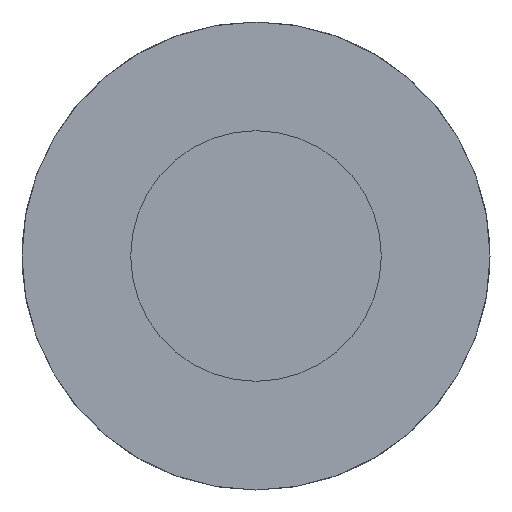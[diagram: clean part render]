
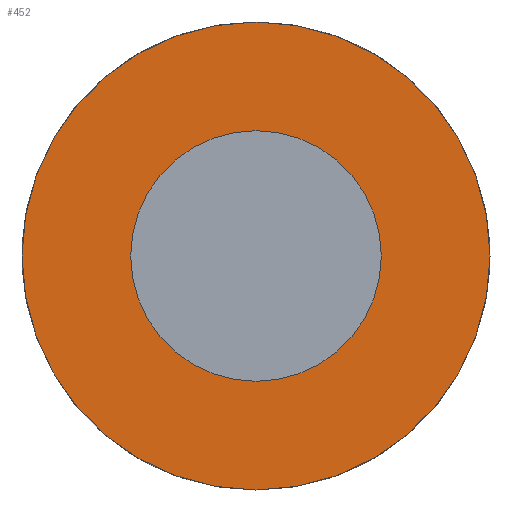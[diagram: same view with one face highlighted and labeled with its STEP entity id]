
A CAD part, front view. The second image highlights one B-rep face of the part: STEP entity #452.
In plain terms, the highlighted planar face has unit normal (0, -1, 0).
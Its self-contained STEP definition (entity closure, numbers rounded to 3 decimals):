
#15=CARTESIAN_POINT('',(0.,0.,0.));
#16=DIRECTION('',(0.,1.,0.));
#17=DIRECTION('',(-1.,0.,0.));
#18=AXIS2_PLACEMENT_3D('',#15,#16,#17);
#28=CARTESIAN_POINT('',(0.,0.,0.));
#29=DIRECTION('',(0.,-1.,0.));
#30=DIRECTION('',(-1.,0.,0.));
#31=AXIS2_PLACEMENT_3D('',#28,#29,#30);
#43=CARTESIAN_POINT('',(0.,0.,0.));
#44=DIRECTION('',(0.,1.,0.));
#45=DIRECTION('',(-1.,0.,0.));
#46=AXIS2_PLACEMENT_3D('',#43,#44,#45);
#48=CARTESIAN_POINT('',(0.,0.,0.));
#49=DIRECTION('',(0.,-1.,0.));
#50=DIRECTION('',(-1.,0.,0.));
#51=AXIS2_PLACEMENT_3D('',#48,#49,#50);
#313=CARTESIAN_POINT('',(-1.5,0.,0.));
#315=VERTEX_POINT('',#313);
#318=CARTESIAN_POINT('',(-2.8,0.,0.));
#320=VERTEX_POINT('',#318);
#321=CARTESIAN_POINT('',(1.5,0.,0.));
#323=VERTEX_POINT('',#321);
#326=CARTESIAN_POINT('',(2.8,0.,0.));
#328=VERTEX_POINT('',#326);
#437=CARTESIAN_POINT('',(0.,0.,0.));
#438=DIRECTION('',(0.,1.,0.));
#439=DIRECTION('',(1.,0.,0.));
#440=AXIS2_PLACEMENT_3D('',#437,#438,#439);
#441=PLANE('',#440);
#443=ORIENTED_EDGE('',*,*,#442,.T.);
#445=ORIENTED_EDGE('',*,*,#444,.F.);
#446=EDGE_LOOP('',(#443,#445));
#447=FACE_OUTER_BOUND('',#446,.F.);
#448=ORIENTED_EDGE('',*,*,#422,.T.);
#449=ORIENTED_EDGE('',*,*,#404,.F.);
#450=EDGE_LOOP('',(#448,#449));
#451=FACE_BOUND('',#450,.F.);
#19=CIRCLE('',#18,1.5);
#32=CIRCLE('',#31,1.5);
#47=CIRCLE('',#46,2.8);
#52=CIRCLE('',#51,2.8);
#404=EDGE_CURVE('',#315,#323,#19,.T.);
#422=EDGE_CURVE('',#315,#323,#32,.T.);
#442=EDGE_CURVE('',#320,#328,#47,.T.);
#444=EDGE_CURVE('',#320,#328,#52,.T.);
#452=ADVANCED_FACE('',(#447,#451),#441,.F.);
